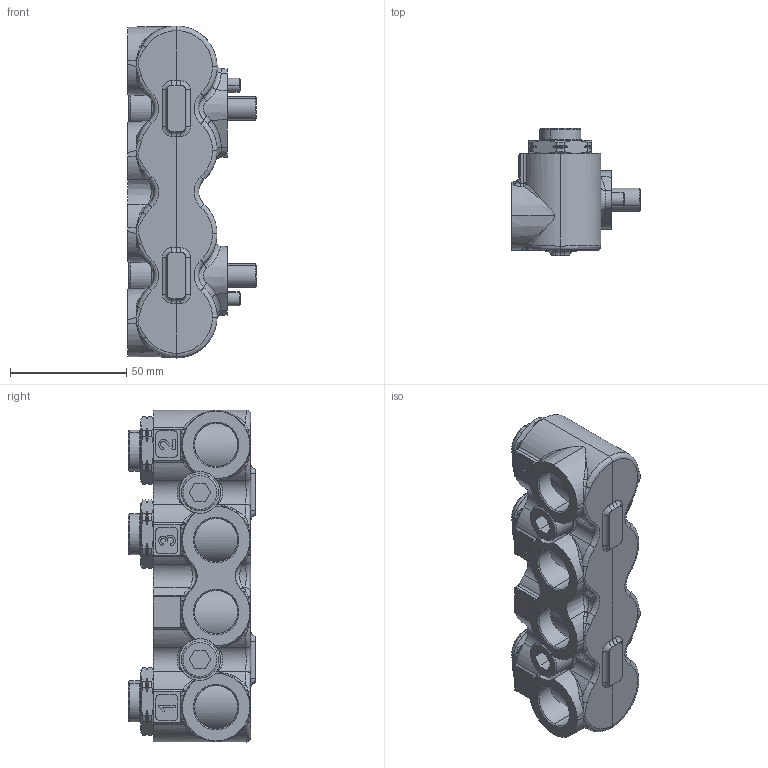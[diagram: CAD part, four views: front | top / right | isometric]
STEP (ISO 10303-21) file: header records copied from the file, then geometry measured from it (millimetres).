
FILE_DESCRIPTION (( 'STEP AP214' ), '1' );
FILE_NAME ('P7319-3C.STEP', '2023-05-25T10:06:48', ( '' ), ( '' ), 'SwSTEP 2.0', 'SolidWorks 2021', '' );
FILE_SCHEMA (( 'AUTOMOTIVE_DESIGN' ));
Length unit declared in the file: millimetre
Products named in the file (1): P7319-3C
Bounding box: 55.5 x 54.8 x 143 mm (x, y, z)
Volume: 214268.3 mm3; surface area: 49007.8 mm2
Topology: 14 solids, 14 shells, 713 faces, 1785 edges, 1119 vertices
Faces by surface type: cylinder 192, bspline 169, plane 147, cone 141, torus 64
Entity records: 38022 total; most frequent: CARTESIAN_POINT 14514, ORIENTED_EDGE 3562, DIRECTION 2850, EDGE_CURVE 1781, AXIS2_PLACEMENT_3D 1159, VERTEX_POINT 1119, EDGE_LOOP 740, UNCERTAINTY_MEASURE_WITH_UNIT 729
